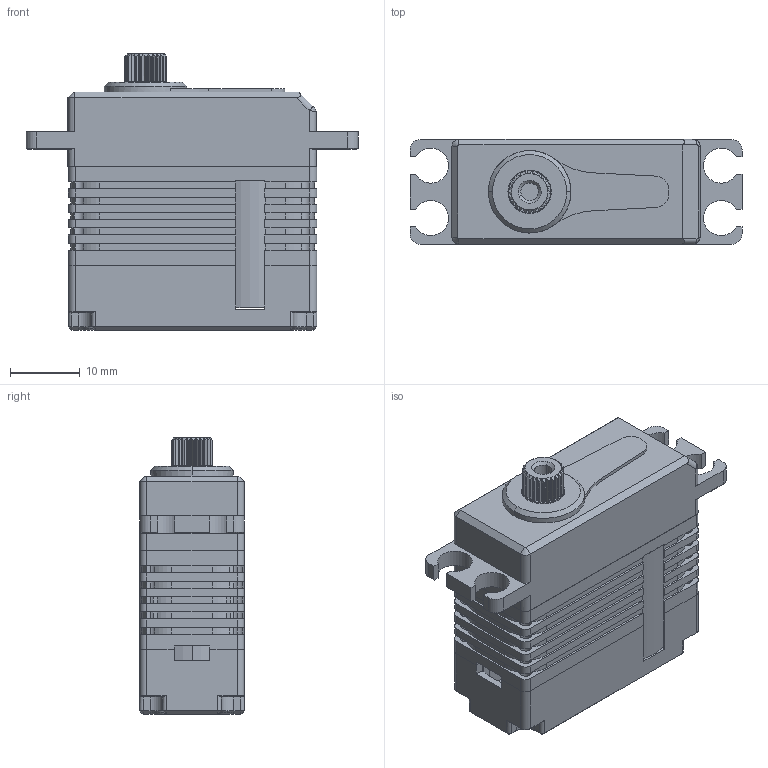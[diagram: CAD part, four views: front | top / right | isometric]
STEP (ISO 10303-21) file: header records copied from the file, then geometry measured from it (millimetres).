
FILE_DESCRIPTION (( 'STEP AP214' ), '1' );
FILE_NAME ('X15-855X_DM_20220429.STEP', '2022-04-29T08:57:50', ( '微软用户' ), ( '微软中国' ), 'SwSTEP 2.0', 'SolidWorks 2016', '' );
FILE_SCHEMA (( 'AUTOMOTIVE_DESIGN' ));
Length unit declared in the file: millimetre
Products named in the file (1): X15-855X_DM_20220429
Bounding box: 47.5 x 15 x 39.59 mm (x, y, z)
Surface area: 8189.8 mm2 (no closed solid volume)
Topology: 0 solids, 7 shells, 533 faces, 1771 edges, 1190 vertices
Faces by surface type: plane 275, cylinder 216, cone 39, bspline 3
Entity records: 25462 total; most frequent: CARTESIAN_POINT 4049, DIRECTION 3298, ORIENTED_EDGE 3196, EDGE_CURVE 1763, VERTEX_POINT 1190, AXIS2_PLACEMENT_3D 1143, VECTOR 1012, LINE 1012
